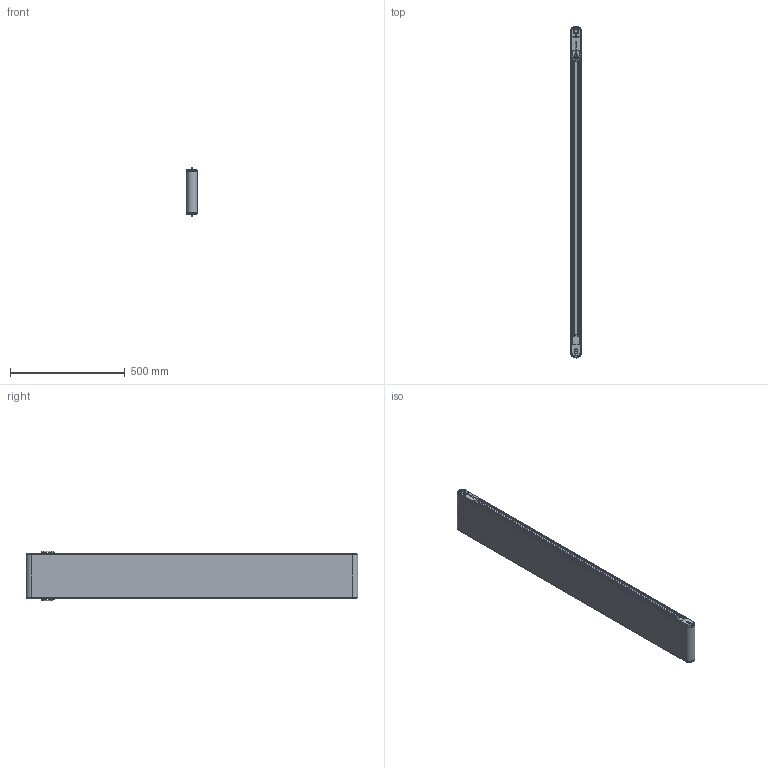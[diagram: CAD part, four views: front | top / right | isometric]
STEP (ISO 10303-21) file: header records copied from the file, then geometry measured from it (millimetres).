
FILE_DESCRIPTION(/* description */ (''),/* implementation_level */ '2;1');
FILE_NAME(/* name */ 'G:\DATEN\CAD\Förderband\Marketing\3D-Modelle (Standard)\FR-40-200\FR-40-200-1400-K.stp',/* time_stamp */ '2019-05-08T09:23:16+02:00',/* author */ ('melanie.ochs'),/* organization */ (''),/* preprocessor_version */ 'ST-DEVELOPER v17',/* originating_system */ 'Autodesk Inventor 2019',/* authorisation */ '');
FILE_SCHEMA (('CONFIG_CONTROL_DESIGN'));
Length unit declared in the file: centimetre
Products named in the file (1): FR-40-200-1400-K
Bounding box: 46.6 x 1446.6 x 217.04 mm (x, y, z)
Volume: 3730408.9 mm3; surface area: 1953611.3 mm2
Topology: 7 solids, 25 shells, 1136 faces, 3129 edges, 2081 vertices
Faces by surface type: plane 559, cylinder 334, bspline 124, cone 81, torus 38
Full cylindrical faces by diameter (mm): 2 x4, 4 x6, 4.3 x4, 4.917 x1, 5 x14, 5.5 x8, 6 x4, 6.647 x2, 8 x4, 8.3 x10, 8.5 x8, 8.773 x2, 10 x2, 11 x2, 12 x3, 15 x2, 20 x4, 25 x2, 28 x4
Entity records: 39116 total; most frequent: CARTESIAN_POINT 9410, ORIENTED_EDGE 6234, DIRECTION 5663, EDGE_CURVE 3117, VERTEX_POINT 2081, AXIS2_PLACEMENT_3D 2011, LINE 1641, VECTOR 1641
